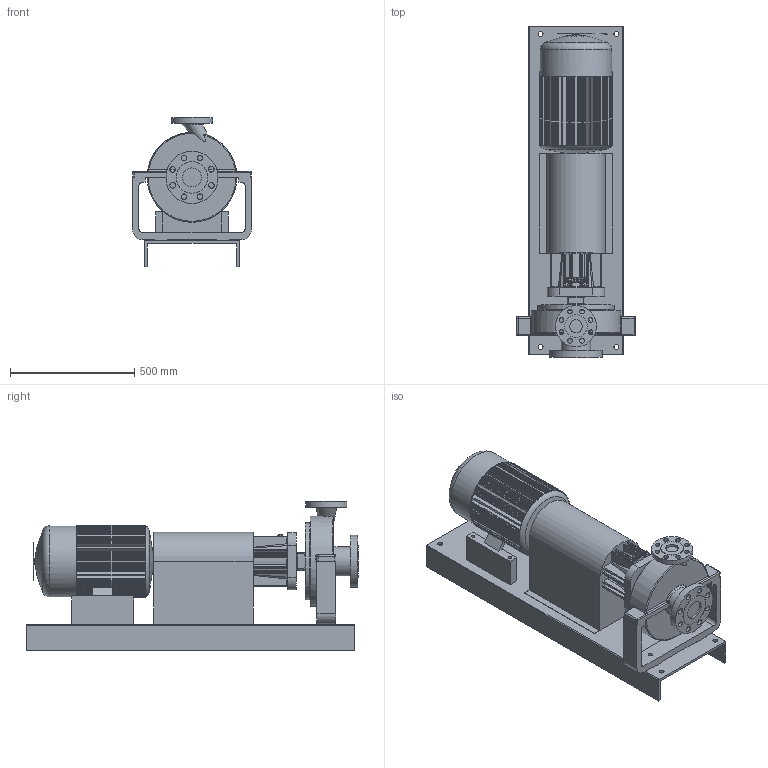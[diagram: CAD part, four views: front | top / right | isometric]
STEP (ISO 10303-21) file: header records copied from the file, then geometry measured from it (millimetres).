
FILE_DESCRIPTION(/* description */ ('Unknown'),/* implementation_level */ '2;1');
FILE_NAME(/* name */ 'CTP 2x3x10 254T',/* time_stamp */ '2016-02-18T13:51:05+01:00',/* author */ ('Unknown'),/* organization */ ('Unknown'),/* preprocessor_version */ 'ST-DEVELOPER v16',/* originating_system */ 'DEX',/* authorisation */ $);
FILE_SCHEMA (('AP242_MANAGED_MODEL_BASED_3D_ENGINEERING_MIM_LF { 1 0 10303 442 1 1 4 }','AUTOMOTIVE_DESIGN {1 0 10303 214 3 1 1}'));
Products named in the file (1): Maatschets3D CTP
Bounding box: 476.25 x 1333.5 x 600.2 mm (x, y, z)
Volume: 79725081.4 mm3; surface area: 5050757.9 mm2
Topology: 1 solids, 1 shells, 1640 faces, 4186 edges, 2503 vertices
Faces by surface type: plane 1149, cylinder 297, bspline 139, sphere 31, torus 22, cone 2
Full cylindrical faces by diameter (mm): 13.462 x4, 16 x2, 19.05 x8, 20 x4, 22.225 x8, 50.8 x1, 51.275 x1, 76.2 x1, 92.075 x1, 117 x1, 127 x1, 165.1 x1, 209.55 x1, 235 x1, 280 x1, 285.75 x1, 309 x1, 361 x1
Entity records: 66705 total; most frequent: CARTESIAN_POINT 16513, ORIENTED_EDGE 8096, DIRECTION 7995, EDGE_CURVE 4048, AXIS2_PLACEMENT_3D 2707, LINE 2581, VECTOR 2581, VERTEX_POINT 2473
